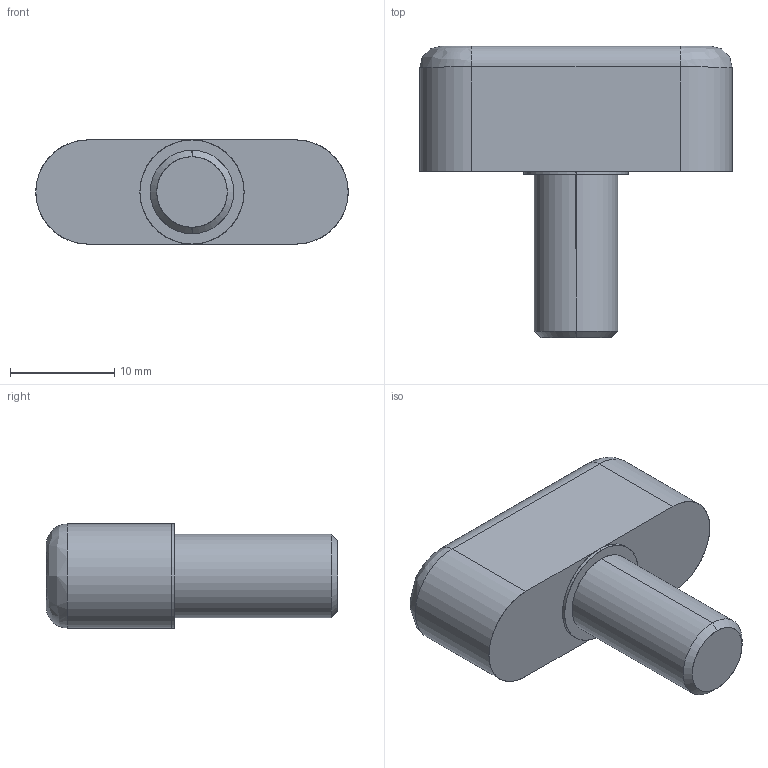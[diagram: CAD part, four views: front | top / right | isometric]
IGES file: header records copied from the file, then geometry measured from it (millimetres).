
Start section: SolidWorks IGES file using analytic representation for surfaces
Global section: file name: C:\Documents and Settings\IanO.IANOHOME\My Documents\Wix and Auto CAD Work\CAD Models\Parametric Models\Wix Models\3738\3738_IGES\3738.W081.igs; native system: SolidWorks 2009; preprocessor: SolidWorks 2009; author: IanO; date: 091209.215714; units: millimetre
Bounding box: 30 x 28 x 10 mm (x, y, z)
Surface area: 1745.4 mm2 (no closed solid volume)
Topology: 0 solids, 0 shells, 19 faces, 256 edges, 256 vertices
Faces by surface type: revolution 10, bspline 9
